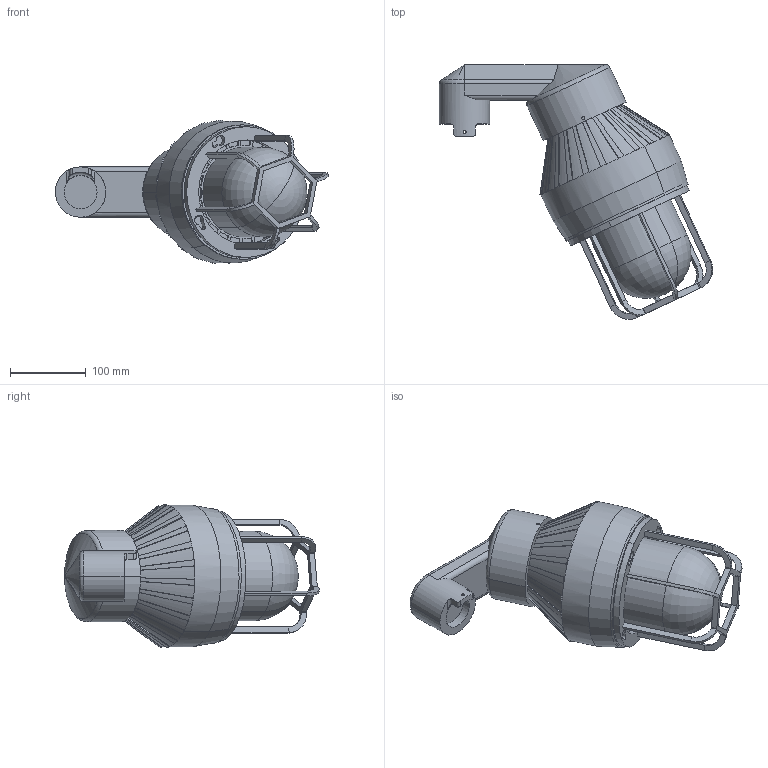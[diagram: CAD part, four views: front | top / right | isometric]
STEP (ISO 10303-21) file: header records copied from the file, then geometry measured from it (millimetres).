
FILE_DESCRIPTION (( 'STEP AP203' ), '1' );
FILE_NAME ('EPSLED-80-STNM.STEP', '2019-02-26T19:53:01', ( '' ), ( '' ), 'SwSTEP 2.0', 'SolidWorks 2016', '' );
FILE_SCHEMA (( 'CONFIG_CONTROL_DESIGN' ));
Length unit declared in the file: inch
Products named in the file (4): EZD5; EMI15; GAURD; EPSLED-80-STNM
Assembly tree (3 placements, depth 2):
  EPSLED-80-STNM
    EZD5
    EMI15
    GAURD
Bounding box: 361.03 x 336.66 x 189.19 mm (x, y, z)
Volume: 4902416.2 mm3; surface area: 318314.6 mm2
Topology: 3 solids, 3 shells, 434 faces, 1072 edges, 656 vertices
Faces by surface type: plane 210, cylinder 116, cone 101, torus 7
Entity records: 13590 total; most frequent: CARTESIAN_POINT 2654, DIRECTION 2298, ORIENTED_EDGE 2134, EDGE_CURVE 1067, AXIS2_PLACEMENT_3D 820, VECTOR 658, LINE 658, VERTEX_POINT 656
